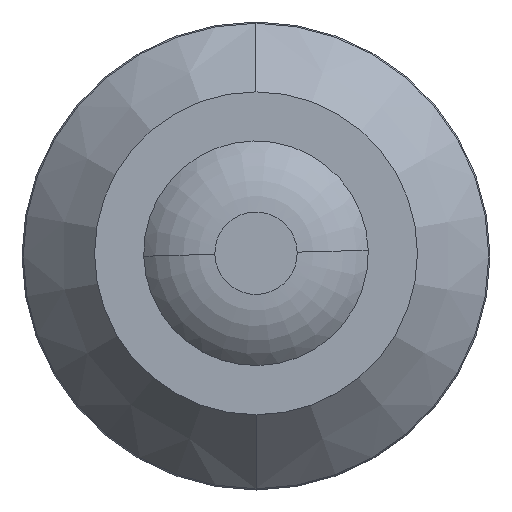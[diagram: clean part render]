
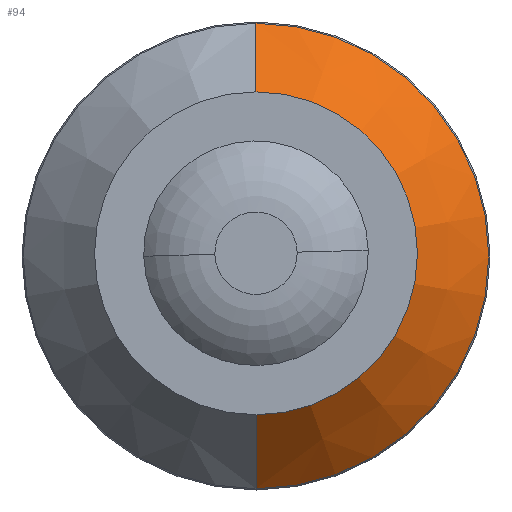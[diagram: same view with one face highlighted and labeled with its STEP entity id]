
A CAD part, top view. The second image highlights one B-rep face of the part: STEP entity #94.
In plain terms, the highlighted conical face has half-angle 42.797 degrees and reference radius 12.5 mm.
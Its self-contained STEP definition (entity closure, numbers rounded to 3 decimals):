
#94 = ADVANCED_FACE ( 'NONE', ( #2624 ), #2797, .T. ) ;
#1045 = CARTESIAN_POINT ( 'NONE',  ( 0., -13.356, 24.867 ) ) ;
#1046 = CARTESIAN_POINT ( 'NONE',  ( 0., -13.356, -24.867 ) ) ;
#1049 = CARTESIAN_POINT ( 'NONE',  ( 0., -0.16, -12.648 ) ) ;
#1050 = CARTESIAN_POINT ( 'NONE',  ( 0., -0.16, 12.648 ) ) ;
#2012 = DIRECTION ( 'NONE',  ( 0., -1., 0. ) ) ;
#2014 = CARTESIAN_POINT ( 'NONE',  ( 0., 0., 0. ) ) ;
#2015 = DIRECTION ( 'NONE',  ( 0., 0., -1. ) ) ;
#2147 = CARTESIAN_POINT ( 'NONE',  ( 0., -13.356, 0. ) ) ;
#2148 = DIRECTION ( 'NONE',  ( 0., 1., 0. ) ) ;
#2149 = DIRECTION ( 'NONE',  ( 0., 0., 1. ) ) ;
#2160 = CARTESIAN_POINT ( 'NONE',  ( 0., -0.16, 0. ) ) ;
#2161 = DIRECTION ( 'NONE',  ( 0., -1., 0. ) ) ;
#2162 = DIRECTION ( 'NONE',  ( 0., 0., 1. ) ) ;
#2202 = LINE ( 'NONE', #2209, #2853 ) ;
#2209 = CARTESIAN_POINT ( 'NONE',  ( 0., 0., 12.5 ) ) ;
#2210 = DIRECTION ( 'NONE',  ( 0., -0.734, 0.679 ) ) ;
#2211 = LINE ( 'NONE', #2212, #2856 ) ;
#2212 = CARTESIAN_POINT ( 'NONE',  ( 0., 0., -12.5 ) ) ;
#2213 = DIRECTION ( 'NONE',  ( 0., -0.734, -0.679 ) ) ;
#2263 = EDGE_CURVE ( 'NONE', #2431, #2432, #2821, .T. ) ;
#2267 = EDGE_CURVE ( 'NONE', #2435, #2436, #2828, .T. ) ;
#2283 = EDGE_CURVE ( 'NONE', #2436, #2431, #2202, .T. ) ;
#2284 = EDGE_CURVE ( 'NONE', #2435, #2432, #2211, .T. ) ;
#2431 = VERTEX_POINT ( 'NONE', #1045 ) ;
#2432 = VERTEX_POINT ( 'NONE', #1046 ) ;
#2435 = VERTEX_POINT ( 'NONE', #1049 ) ;
#2436 = VERTEX_POINT ( 'NONE', #1050 ) ;
#2624 = FACE_OUTER_BOUND ( 'NONE', #3584, .T. ) ;
#2797 = CONICAL_SURFACE ( 'NONE', #2798, 12.5, 0.747 ) ;
#2798 = AXIS2_PLACEMENT_3D ( 'NONE', #2014, #2012, #2015 ) ;
#2821 = CIRCLE ( 'NONE', #2822, 24.867 ) ;
#2822 = AXIS2_PLACEMENT_3D ( 'NONE', #2147, #2148, #2149 ) ;
#2828 = CIRCLE ( 'NONE', #2833, 12.648 ) ;
#2833 = AXIS2_PLACEMENT_3D ( 'NONE', #2160, #2161, #2162 ) ;
#2853 = VECTOR ( 'NONE', #2210, 1000. ) ;
#2856 = VECTOR ( 'NONE', #2213, 1000. ) ;
#3584 = EDGE_LOOP ( 'NONE', ( #3674, #3675, #3676, #3677 ) ) ;
#3674 = ORIENTED_EDGE ( 'NONE', *, *, #2267, .T. ) ;
#3675 = ORIENTED_EDGE ( 'NONE', *, *, #2283, .T. ) ;
#3676 = ORIENTED_EDGE ( 'NONE', *, *, #2263, .T. ) ;
#3677 = ORIENTED_EDGE ( 'NONE', *, *, #2284, .F. ) ;
